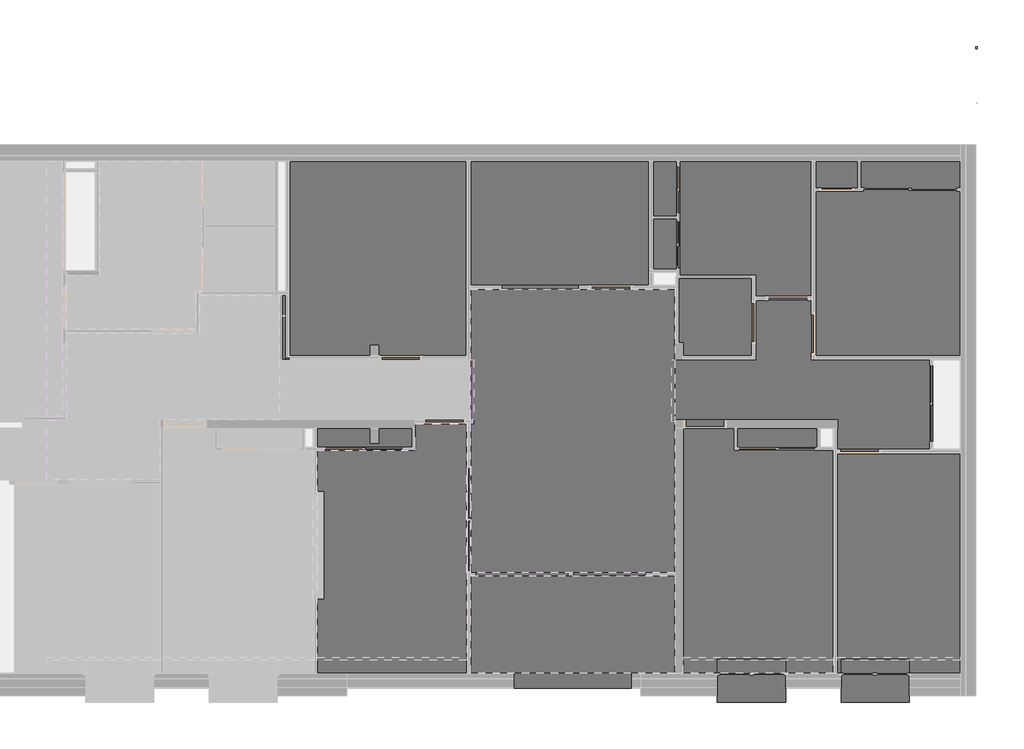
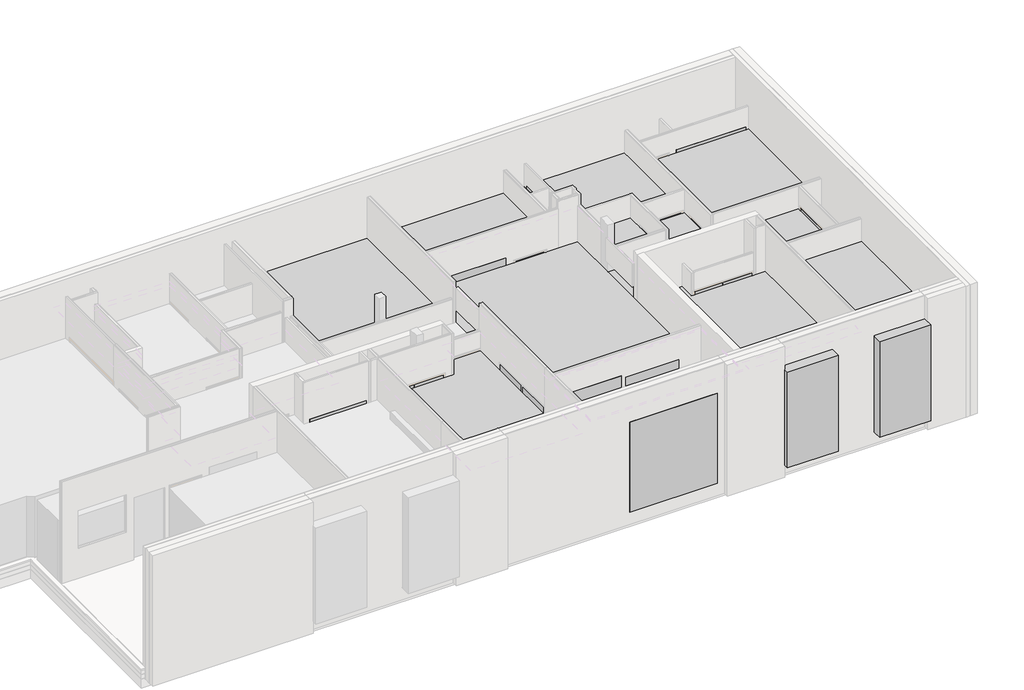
# One storey, part 8 of 8: 52 proxies.
"""IFC4 building model written with IfcOpenShell, lengths in millimetres."""

from ifc_helpers import new_model, si_unit, point, frame, frame_2d, origin, origin_with_axes, place, context, project, spatial, polyline, circle_curve, trimmed, segment, composite_curve, outline, extrude, faceted_brep, transform, mapped, element, save
from ifc_brep_helpers import plane_surface, revolved_surface, advanced_brep
from components import generic_models_f095d0f3

model = new_model("IFC4")

# Units and contexts
model_context = context("Model", 3, world=origin())
ifc_project = project(units=[si_unit("LENGTHUNIT", "METRE", prefix="MILLI")], contexts=[model_context])

# Site, building, storey
site = spatial("IfcSite", under=ifc_project)
building = spatial("IfcBuilding", under=site)
storey = spatial("IfcBuildingStorey", under=building, Name="0 Mairie RDC 0.00", Elevation=0.0)

# Proxies
placement = place(None, origin())
element("IfcBuildingElementProxy", 1, Name="Pièces - BUREAU 4", ObjectType="Pièces - BUREAU 4", at=placement, inside=storey, context=model_context, shape_type="SweptSolid", body=[
    extrude(outline(polyline([(1777.6156007, -8831.1038426), (1777.6156007, -13978.5662223), (-1106.3922233, -13978.5662223), (-1106.3922233, -8831.1038426), (1777.6156007, -8831.1038426)])), origin_with_axes(), (0.0, 0.0, 1.0), 2000.0),
])
element("IfcBuildingElementProxy", 2, Name="Pièces - WC PERSONNEL 5", ObjectType="Pièces - WC PERSONNEL 5", at=placement, inside=storey, context=model_context, shape_type="SweptSolid", body=[
    extrude(outline(polyline([(-4827.496702, -4722.7868397), (-3118.9176162, -4722.7868397), (-3118.9176162, -6533.7824715), (-4827.496702, -6533.7824715), (-4827.496702, -4722.7868397)])), origin_with_axes(), (0.0, 0.0, 1.0), 2000.0),
])
element("IfcBuildingElementProxy", 3, Name="Pièces - TECHNIQUE URBANISME 6", ObjectType="Pièces - TECHNIQUE URBANISME 6", at=placement, inside=storey, context=model_context, shape_type="SweptSolid", body=[
    extrude(outline(polyline([(-1206.3922233, -13978.5662223), (-3920.1625689, -13978.5662223), (-4727.496702, -13978.5662223), (-4727.496702, -11663.5833837), (-4727.496702, -8238.2685444), (-3526.0406291, -8238.2685444), (-3526.0406291, -8751.7570094), (-1541.0769125, -8751.7570094), (-1206.3922233, -8751.7570094), (-1206.3922233, -8781.1038426), (-1206.3922233, -13978.5662223)])), origin_with_axes(), (0.0, 0.0, 1.0), 2000.0),
])
element("IfcBuildingElementProxy", 4, Name="Pièces - Rgt TU 7", ObjectType="Pièces - Rgt TU 7", at=placement, inside=storey, context=model_context, shape_type="SweptSolid", body=[
    extrude(outline(polyline([(-3456.0406291, -8238.2685444), (-1576.0769125, -8238.2685444), (-1576.0769125, -8681.7570094), (-3456.0406291, -8681.7570094), (-3456.0406291, -8238.2685444)])), origin_with_axes(), (0.0, 0.0, 1.0), 2000.0),
])
element("IfcBuildingElementProxy", 5, Name="Generic Models", at=placement, inside=storey, context=model_context, shape_type="SweptSolid", body=[
    extrude(outline(polyline([(-1617.7552543, -5187.6533676), (-1617.7552543, -1972.7637486), (-634.0175894, -1972.7637486), (-634.0175894, -2637.7637486), (-564.0175894, -2637.7637486), (-564.0175894, -1972.7637486), (1777.6156007, -1972.7637486), (1777.6156007, -6533.7824715), (1092.9012584, -6533.7824715), (-1617.7552543, -6533.7824715), (-1617.7552543, -5187.6533676)])), origin_with_axes(), (0.0, 0.0, 1.0), 2000.0),
])
element("IfcBuildingElementProxy", 6, Name="Generic Models", at=placement, inside=storey, context=model_context, shape_type="AdvancedBrep", body=[
    advanced_brep(
    [(1169.4151282, -2359.887582, 62.1509425), (1144.0151282, -2359.887582, 62.1509425), (1156.7151282, -2359.887582, 62.1509425), (1156.7151282, -2359.887582, 24.0509425)],
    [
        (0, 1, circle_curve(frame((1156.7151282, -2359.887582, 62.1509425), z_axis=(0.0, 0.0, 1.0), x_axis=(-1.0, 0.0, 0.0)), 12.7)),
        (1, 2),
        (2, 0),
        (1, 0, circle_curve(frame((1156.7151282, -2359.887582, 62.1509425), z_axis=(0.0, 0.0, 1.0), x_axis=(-1.0, 0.0, 0.0)), 12.7)),
        (3, 1),
        (0, 3),
    ],
    [
        plane_surface(frame((1156.7151282, -2359.887582, 62.1509425), z_axis=(0.0, 0.0, 1.0), x_axis=(-1.0, 0.0, 0.0))),
        revolved_surface(polyline([(1144.0151282, -2359.887582, 62.1509425), (1156.7151282, -2359.887582, 24.0509425)]), (1156.7151282, -2359.887582, 62.1509425), (0.0, 0.0, -1.0)),
    ],
    [
        (0, [[1, 2, 3]]),
        (0, [[4, -3, -2]]),
        (1, [[5, -1, 6]]),
        (1, [[-6, -4, -5]]),
    ],
),
    advanced_brep(
    [(1144.0151282, -2359.887582, 62.1509425), (1169.4151282, -2359.887582, 62.1509425), (1156.7151282, -2359.887582, 62.1509425), (1156.7151282, -2359.887582, 100.2509425)],
    [
        (0, 1, circle_curve(frame((1156.7151282, -2359.887582, 62.1509425), z_axis=(0.0, 0.0, -1.0), x_axis=(1.0, 0.0, 0.0)), 12.7)),
        (1, 2),
        (2, 0),
        (1, 0, circle_curve(frame((1156.7151282, -2359.887582, 62.1509425), z_axis=(0.0, 0.0, -1.0), x_axis=(1.0, 0.0, 0.0)), 12.7)),
        (3, 1),
        (0, 3),
    ],
    [
        plane_surface(frame((1156.7151282, -2359.887582, 62.1509425), z_axis=(0.0, 0.0, -1.0), x_axis=(1.0, 0.0, 0.0))),
        revolved_surface(polyline([(1169.4151282, -2359.887582, 62.1509425), (1156.7151282, -2359.887582, 100.2509425)]), (1156.7151282, -2359.887582, 62.1509425), (0.0, 0.0, 1.0)),
    ],
    [
        (0, [[1, 2, 3]]),
        (0, [[4, -3, -2]]),
        (1, [[5, -1, 6]]),
        (1, [[-6, -4, -5]]),
    ],
),
])
element("IfcBuildingElementProxy", 7, Name="Generic Models", at=placement, inside=storey, context=model_context, shape_type="SweptSolid", body=[
    extrude(outline(polyline([(-1617.7552543, -5187.6533676), (-1617.7552543, -1972.7637486), (-634.0175894, -1972.7637486), (-634.0175894, -2637.7637486), (-564.0175894, -2637.7637486), (-564.0175894, -1972.7637486), (1777.6156007, -1972.7637486), (1777.6156007, -6533.7824715), (1092.9012584, -6533.7824715), (-1617.7552543, -6533.7824715), (-1617.7552543, -5187.6533676)])), origin_with_axes(), (0.0, 0.0, 1.0), 2000.0),
])
element("IfcBuildingElementProxy", 8, Name="Generic Models", at=placement, inside=storey, context=model_context, shape_type="SweptSolid", body=[
    extrude(outline(polyline([(-1617.7552543, -5187.6533676), (-1617.7552543, -1972.7637486), (-634.0175894, -1972.7637486), (-634.0175894, -2637.7637486), (-564.0175894, -2637.7637486), (-564.0175894, -1972.7637486), (1777.6156007, -1972.7637486), (1777.6156007, -6533.7824715), (1092.9012584, -6533.7824715), (-1617.7552543, -6533.7824715), (-1617.7552543, -5187.6533676)])), origin_with_axes(), (0.0, 0.0, 1.0), 2000.0),
])
element("IfcBuildingElementProxy", 9, Name="Pièces - HALL D'ACCUEIL 16", ObjectType="Pièces - HALL D'ACCUEIL 16", at=placement, inside=storey, context=model_context, shape_type="SweptSolid", body=[
    extrude(outline(polyline([(-9708.4471465, -4978.2154166), (-5529.0919733, -4978.2154166), (-5527.496701, -4978.2154166), (-5477.496701, -4978.2154166), (-4927.496702, -4978.2154166), (-4927.496702, -6233.7824715), (-4927.496702, -6633.7824715), (-4927.496702, -7985.2589444), (-4927.496702, -8138.2685444), (-4927.496702, -11628.5833837), (-9754.6455383, -11628.5833837), (-9754.6455383, -9128.5833837), (-9704.6455383, -9128.5833837), (-9704.6455383, -8082.7867091), (-9708.4471465, -8082.7867091), (-9708.4471465, -6735.5436392), (-9708.4471465, -6532.5340392), (-9708.4471465, -4978.2154166)])), origin_with_axes(), (0.0, 0.0, 1.0), 2000.0),
])
element("IfcBuildingElementProxy", 10, Name="Pièces - ENTRETIEN 17", ObjectType="Pièces - ENTRETIEN 17", at=placement, inside=storey, context=model_context, shape_type="SweptSolid", body=[
    extrude(outline(polyline([(-5427.496701, -3327.7490792), (-4842.4967035, -3327.7490792), (-4842.4967035, -3257.7490792), (-5427.496701, -3257.7490792), (-5427.496701, -1972.7637486), (-1717.7552543, -1972.7637486), (-1717.7552543, -5137.6533676), (-3018.9176162, -5137.6533676), (-3018.9176162, -4652.7868397), (-4842.4967035, -4652.7868397), (-4842.4967035, -4510.805772), (-5015.506302, -4510.805772), (-5427.496701, -4510.805772), (-5427.496701, -3327.7490792)])), origin_with_axes(), (0.0, 0.0, 1.0), 2000.0),
])
element("IfcBuildingElementProxy", 11, Name="Pièces - SAS 18", ObjectType="Pièces - SAS 18", at=placement, inside=storey, context=model_context, shape_type="SweptSolid", body=[
    extrude(outline(polyline([(-9704.6455383, -11698.5833837), (-4927.496702, -11698.5833837), (-4927.496702, -13978.5662223), (-9704.6455383, -13978.5662223), (-9704.6455383, -11698.5833837)])), origin_with_axes(), (0.0, 0.0, 1.0), 2000.0),
])
element("IfcBuildingElementProxy", 12, Name="Pièces - BUREAU COMPTABILITE 19", ObjectType="Pièces - BUREAU COMPTABILITE 19", at=placement, inside=storey, context=model_context, shape_type="SweptSolid", body=[
    extrude(outline(polyline([(-9804.6455383, -13978.5662223), (-12618.5500393, -13978.5662223), (-13304.255006, -13978.5662223), (-13304.255006, -12228.7534329), (-13354.255006, -12228.7534329), (-13354.255006, -9728.7649845), (-13304.255006, -9728.7649845), (-13304.255006, -8754.3718601), (-13304.255006, -8752.7765879), (-13304.255006, -8717.7765879), (-13304.255006, -8232.7637435), (-12058.4196435, -8232.7637435), (-12058.4196435, -8582.7637435), (-11858.4196435, -8582.7637435), (-11858.4196435, -8232.7637435), (-11073.1086334, -8232.7637435), (-11073.1086334, -8717.6130855), (-11003.1086334, -8717.6130855), (-11003.1086334, -8132.7867091), (-9804.6455383, -8132.7867091), (-9804.6455383, -9128.5833837), (-9754.6455383, -9128.5833837), (-9754.6455383, -11626.9881114), (-9754.6455383, -11628.5833837), (-9804.6455383, -11663.5833837), (-9804.6455383, -13978.5662223)])), origin_with_axes(), (0.0, 0.0, 1.0), 2000.0),
])
element("IfcBuildingElementProxy", 13, Name="Pièces - REPROGRAPHIE 25", ObjectType="Pièces - REPROGRAPHIE 25", at=placement, inside=storey, context=model_context, shape_type="SweptSolid", body=[
    extrude(outline(polyline([(-9708.4471465, -1972.7637486), (-5527.496701, -1972.7637486), (-5527.496701, -4878.2154166), (-9708.4471465, -4878.2154166), (-9708.4471465, -1972.7637486)])), origin_with_axes(), (0.0, 0.0, 1.0), 2000.0),
])
element("IfcBuildingElementProxy", 14, Name="Pièces - DEGAGEMENT 2 27", ObjectType="Pièces - DEGAGEMENT 2 27", at=placement, inside=storey, context=model_context, shape_type="SweptSolid", body=[
    extrude(outline(polyline([(-1717.7552543, -6633.7824715), (1057.9012584, -6633.7824715), (1057.9012584, -8731.1038426), (-1106.3922233, -8731.1038426), (-1106.3922233, -8239.8638166), (-1106.3922233, -8038.2685444), (-1207.9874955, -8038.2685444), (-1504.4816403, -8038.2685444), (-1577.6721848, -8038.2685444), (-3454.4453569, -8038.2685444), (-3527.6359014, -8038.2685444), (-4927.496702, -8038.2685444), (-4927.496702, -6633.7824715), (-4727.496702, -6633.7824715), (-3018.9176162, -6633.7824715), (-3018.9176162, -5237.6533676), (-1717.7552543, -5237.6533676), (-1717.7552543, -6633.7824715)])), origin_with_axes(), (0.0, 0.0, 1.0), 2000.0),
])
element("IfcBuildingElementProxy", 15, Name="Pièces - ARCHIVES 29", ObjectType="Pièces - ARCHIVES 29", at=placement, inside=storey, context=model_context, shape_type="SweptSolid", body=[
    extrude(outline(polyline([(-11858.5461708, -6292.5340392), (-12058.5461708, -6292.5340392), (-12058.5461708, -6532.5340392), (-13946.7760862, -6532.5340392), (-13946.7760862, -1972.7637486), (-9808.4471465, -1972.7637486), (-9808.4471465, -6532.5340392), (-11858.5461708, -6532.5340392), (-11858.5461708, -6292.5340392)])), origin_with_axes(), (0.0, 0.0, 1.0), 2000.0),
])
element("IfcBuildingElementProxy", 16, Name="Generic Models", at=placement, inside=storey, context=model_context, shape_type="SweptSolid", body=[
    extrude(outline(polyline([(-4877.4967035, -4477.5549021), (-4877.4967035, -3377.5549021), (-4807.4967035, -3377.5549021), (-4807.4967035, -4477.5549021), (-4877.4967035, -4477.5549021)])), origin_with_axes(), (0.0, 0.0, 1.0), 2100.0),
])
element("IfcBuildingElementProxy", 17, Name="Generic Models", at=placement, inside=storey, context=model_context, shape_type="SweptSolid", body=[
    extrude(outline(polyline([(-4807.4967035, -2089.805772), (-4807.4967035, -3189.805772), (-4877.4967035, -3189.805772), (-4877.4967035, -2089.805772), (-4807.4967035, -2089.805772)])), origin_with_axes(), (0.0, 0.0, 1.0), 2100.0),
])
element("IfcBuildingElementProxy", 18, Name="Generic Models", at=placement, inside=storey, context=model_context, shape_type="SweptSolid", body=[
    extrude(outline(polyline([(-1617.7552543, -5518.7824715), (-1617.7552543, -6518.7824715), (-1717.7552543, -6518.7824715), (-1717.7552543, -5518.7824715), (-1617.7552543, -5518.7824715)])), origin_with_axes(), (0.0, 0.0, 1.0), 2075.0),
])
element("IfcBuildingElementProxy", 19, Name="Generic Models", at=placement, inside=storey, context=model_context, shape_type="SweptSolid", body=[
    extrude(outline(polyline([(-3018.9176162, -5252.6533676), (-3018.9176162, -6252.6533676), (-3118.9176162, -6252.6533676), (-3118.9176162, -5252.6533676), (-3018.9176162, -5252.6533676)])), origin_with_axes(), (0.0, 0.0, 1.0), 2075.0),
])
element("IfcBuildingElementProxy", 20, Name="Generic Models", at=placement, inside=storey, context=model_context, shape_type="SweptSolid", body=[
    extrude(outline(polyline([(-2767.7552543, -5137.6533676), (-1767.7552543, -5137.6533676), (-1767.7552543, -5237.6533676), (-2767.7552543, -5237.6533676), (-2767.7552543, -5137.6533676)])), origin_with_axes(), (0.0, 0.0, 1.0), 2075.0),
])
element("IfcBuildingElementProxy", 21, Name="Generic Models", at=placement, inside=storey, context=model_context, shape_type="SweptSolid", body=[
    extrude(outline(polyline([(-11848.5461708, -6532.5340392), (-10848.5461708, -6532.5340392), (-10848.5461708, -6632.5340392), (-11848.5461708, -6632.5340392), (-11848.5461708, -6532.5340392)])), origin_with_axes(), (0.0, 0.0, 1.0), 2075.0),
])
element("IfcBuildingElementProxy", 22, Name="Generic Models", at=placement, inside=storey, context=model_context, shape_type="SweptSolid", body=[
    extrude(outline(polyline([(-91.3922233, -8831.1038426), (-1091.3922233, -8831.1038426), (-1091.3922233, -8731.1038426), (-91.3922233, -8731.1038426), (-91.3922233, -8831.1038426)])), origin_with_axes(), (0.0, 0.0, 1.0), 2075.0),
])
element("IfcBuildingElementProxy", 23, Name="Generic Models", at=placement, inside=storey, context=model_context, shape_type="SweptSolid", body=[
    extrude(outline(polyline([(-1091.3922233, -8831.1038426), (-1091.3922233, -8731.1038426), (-91.3922233, -8731.1038426), (-91.3922233, -8831.1038426), (-1091.3922233, -8831.1038426)])), origin_with_axes(), (0.0, 0.0, 1.0), 2075.0),
])
element("IfcBuildingElementProxy", 24, Name="Generic Models", at=placement, inside=storey, context=model_context, shape_type="SweptSolid", body=[
    extrude(outline(polyline([(-1621.0406291, -8751.7570094), (-3421.0406291, -8751.7570094), (-3421.0406291, -8681.7570094), (-1621.0406291, -8681.7570094), (-1621.0406291, -8751.7570094)])), origin_with_axes(), (0.0, 0.0, 1.0), 2100.0),
])
element("IfcBuildingElementProxy", 25, Name="Generic Models", at=placement, inside=storey, context=model_context, shape_type="SweptSolid", body=[
    extrude(outline(polyline([(-6917.4166831, -4878.2154166), (-5917.4166831, -4878.2154166), (-5917.4166831, -4978.2154166), (-6917.4166831, -4978.2154166), (-6917.4166831, -4878.2154166)])), origin_with_axes(), (0.0, 0.0, 1.0), 2075.0),
])
element("IfcBuildingElementProxy", 26, Name="Generic Models", at=placement, inside=storey, context=model_context, shape_type="SweptSolid", body=[
    extrude(outline(polyline([(-8974.496701, -4878.2154166), (-7174.496701, -4878.2154166), (-7174.496701, -4978.2154166), (-8974.496701, -4978.2154166), (-8974.496701, -4878.2154166)])), frame((0.0, 0.0, 1000.0), z_axis=(0.0, 0.0, 1.0), x_axis=(1.0, 0.0, 0.0)), (0.0, 0.0, 1.0), 1250.0),
])
element("IfcBuildingElementProxy", 27, Name="Generic Models", at=placement, inside=storey, context=model_context, shape_type="SweptSolid", body=[
    extrude(outline(polyline([(-725.8864219, -2672.7637486), (-1525.8864219, -2672.7637486), (-1525.8864219, -2602.7637486), (-725.8864219, -2602.7637486), (-725.8864219, -2672.7637486)])), origin_with_axes(), (0.0, 0.0, 1.0), 2075.0),
])
element("IfcBuildingElementProxy", 28, Name="Generic Models", at=placement, inside=storey, context=model_context, shape_type="SweptSolid", body=[
    extrude(outline(polyline([(-499.0175894, -2602.7637486), (1700.9824106, -2602.7637486), (1700.9824106, -2672.7637486), (-499.0175894, -2672.7637486), (-499.0175894, -2602.7637486)])), origin_with_axes(), (0.0, 0.0, 1.0), 2100.0),
])
element("IfcBuildingElementProxy", 29, Name="Generic Models", at=placement, inside=storey, context=model_context, shape_type="SweptSolid", body=[
    extrude(outline(polyline([(-5605.3883155, -11698.5833837), (-7305.3883155, -11698.5833837), (-7305.3883155, -11628.5833837), (-5605.3883155, -11628.5833837), (-5605.3883155, -11698.5833837)])), origin_with_axes(), (0.0, 0.0, 1.0), 2400.0),
])
element("IfcBuildingElementProxy", 30, Name="Generic Models", at=placement, inside=storey, context=model_context, shape_type="SweptSolid", body=[
    extrude(outline(polyline([(-7424.6455383, -11698.5833837), (-9584.6455383, -11698.5833837), (-9584.6455383, -11628.5833837), (-7424.6455383, -11628.5833837), (-7424.6455383, -11698.5833837)])), origin_with_axes(), (0.0, 0.0, 1.0), 2500.0),
])
element("IfcBuildingElementProxy", 31, Name="Generic Models", at=placement, inside=storey, context=model_context, shape_type="SweptSolid", body=[
    extrude(outline(polyline([(-11313.6818197, -8752.6130855), (-13113.6818197, -8752.6130855), (-13113.6818197, -8682.6130855), (-11313.6818197, -8682.6130855), (-11313.6818197, -8752.6130855)])), origin_with_axes(), (0.0, 0.0, 1.0), 2100.0),
])
element("IfcBuildingElementProxy", 32, Name="Generic Models", at=placement, inside=storey, context=model_context, shape_type="SweptSolid", body=[
    extrude(outline(polyline([(-9819.6455383, -8132.7867091), (-10819.6455383, -8132.7867091), (-10819.6455383, -8032.7867091), (-9819.6455383, -8032.7867091), (-9819.6455383, -8132.7867091)])), origin_with_axes(), (0.0, 0.0, 1.0), 2075.0),
])
element("IfcBuildingElementProxy", 33, Name="Generic Models", at=placement, inside=storey, context=model_context, shape_type="SweptSolid", body=[
    extrude(outline(polyline([(-3712.496702, -8238.2685444), (-4712.496702, -8238.2685444), (-4712.496702, -8038.2685444), (-3712.496702, -8038.2685444), (-3712.496702, -8238.2685444)])), origin_with_axes(), (0.0, 0.0, 1.0), 2075.0),
])
element("IfcBuildingElementProxy", 34, Name="Generic Models", at=placement, inside=storey, context=model_context, shape_type="SweptSolid", body=[
    extrude(outline(polyline([(1057.9012584, -8557.443157), (1057.9012584, -6757.443157), (1127.9012584, -6757.443157), (1127.9012584, -8557.443157), (1057.9012584, -8557.443157)])), origin_with_axes(), (0.0, 0.0, 1.0), 2100.0),
])
element("IfcBuildingElementProxy", 35, Name="Generic Models", at=placement, inside=storey, context=model_context, shape_type="SweptSolid", body=[
    extrude(outline(polyline([(-5934.6455383, -14338.5662223), (-8694.6455383, -14338.5662223), (-8694.6455383, -13978.5662223), (-5934.6455383, -13978.5662223), (-5934.6455383, -14338.5662223)])), origin_with_axes(), (0.0, 0.0, 1.0), 3000.0),
])
element("IfcBuildingElementProxy", 36, Name="Generic Models", at=placement, inside=storey, context=model_context, shape_type="Brep", body=[
    faceted_brep([(-2320.1625689, -14391.5689782, 0.0), (-2320.1625689, -14058.5662223, 35.0), (-2320.1625689, -14078.5662223, 35.0), (-2320.1625689, -14078.5662223, 3185.0), (-2320.1625689, -14658.5662223, 3185.0), (-2320.1625689, -14658.5662223, 0.0), (-3920.1625689, -13658.5662223, 3185.0), (-3920.1625689, -13658.5662223, 35.0), (-3920.1625689, -13978.5662223, 35.0), (-3920.1625689, -13978.5662223, 3185.0), (-2320.1625689, -13658.5662223, 35.0), (-2320.1625689, -13978.5662223, 35.0), (-2270.1625689, -13978.5662223, 35.0), (-2270.1625689, -14028.5662223, 35.0), (-2310.1625689, -14028.5662223, 35.0), (-2310.1625689, -14078.5662223, 35.0), (-3920.1625689, -14058.5662223, 35.0), (-3920.1625689, -14078.5662223, 35.0), (-3930.1625689, -14078.5662223, 35.0), (-3930.1625689, -14028.5662223, 35.0), (-3970.1625689, -14028.5662223, 35.0), (-3970.1625689, -13978.5662223, 35.0), (-2320.1625689, -13658.5662223, 3185.0), (-3920.1625689, -14658.5662223, 3185.0), (-3920.1625689, -14078.5662223, 3185.0), (-3920.1625689, -14658.5662223, 0.0), (-3920.1625689, -14391.5689782, 0.0), (-2270.1625689, -13978.5662223, 3235.0), (-2270.1625689, -14028.5662223, 3235.0), (-3970.1625689, -14028.5662223, 3235.0), (-3930.1625689, -14028.5662223, 3195.0), (-2310.1625689, -14028.5662223, 3195.0), (-2310.1625689, -14078.5662223, 3195.0), (-3930.1625689, -14078.5662223, 3195.0), (-2320.1625689, -13978.5662223, 3185.0), (-3970.1625689, -13978.5662223, 3235.0)], [[[0, 1, 2, 3, 4, 5]], [[6, 7, 8, 9]], [[7, 10, 11, 12, 13, 14, 15, 2, 1, 16, 17, 18, 19, 20, 21, 8]], [[22, 10, 7, 6]], [[23, 4, 3, 24]], [[5, 4, 23, 25]], [[0, 5, 25, 26]], [[1, 0, 26, 16]], [[13, 12, 27, 28]], [[14, 13, 28, 29, 20, 19, 30, 31]], [[15, 14, 31, 32]], [[2, 15, 32, 33, 18, 17, 24, 3]], [[12, 11, 34, 9, 8, 21, 35, 27]], [[28, 27, 35, 29]], [[31, 30, 33, 32]], [[20, 29, 35, 21]], [[30, 19, 18, 33]], [[22, 6, 9, 34]], [[25, 23, 24, 17, 16, 26]], [[10, 22, 34, 11]]]),
])
element("IfcBuildingElementProxy", 37, Name="Generic Models", at=placement, inside=storey, context=model_context, shape_type="Brep", body=[
    faceted_brep([(577.6156007, -14391.5689782, 0.0), (577.6156007, -14058.5662223, 35.0), (577.6156007, -14078.5662223, 35.0), (577.6156007, -14078.5662223, 3185.0), (577.6156007, -14658.5662223, 3185.0), (577.6156007, -14658.5662223, 0.0), (-1022.3843993, -13658.5662223, 3185.0), (-1022.3843993, -13658.5662223, 35.0), (-1022.3843993, -13978.5662223, 35.0), (-1022.3843993, -13978.5662223, 3185.0), (577.6156007, -13658.5662223, 35.0), (577.6156007, -13978.5662223, 35.0), (627.6156007, -13978.5662223, 35.0), (627.6156007, -14028.5662223, 35.0), (587.6156007, -14028.5662223, 35.0), (587.6156007, -14078.5662223, 35.0), (-1022.3843993, -14058.5662223, 35.0), (-1022.3843993, -14078.5662223, 35.0), (-1032.3843993, -14078.5662223, 35.0), (-1032.3843993, -14028.5662223, 35.0), (-1072.3843993, -14028.5662223, 35.0), (-1072.3843993, -13978.5662223, 35.0), (577.6156007, -13658.5662223, 3185.0), (-1022.3843993, -14658.5662223, 3185.0), (-1022.3843993, -14078.5662223, 3185.0), (-1022.3843993, -14658.5662223, 0.0), (-1022.3843993, -14391.5689782, 0.0), (627.6156007, -13978.5662223, 3235.0), (627.6156007, -14028.5662223, 3235.0), (-1072.3843993, -14028.5662223, 3235.0), (-1032.3843993, -14028.5662223, 3195.0), (587.6156007, -14028.5662223, 3195.0), (587.6156007, -14078.5662223, 3195.0), (-1032.3843993, -14078.5662223, 3195.0), (577.6156007, -13978.5662223, 3185.0), (-1072.3843993, -13978.5662223, 3235.0)], [[[0, 1, 2, 3, 4, 5]], [[6, 7, 8, 9]], [[7, 10, 11, 12, 13, 14, 15, 2, 1, 16, 17, 18, 19, 20, 21, 8]], [[22, 10, 7, 6]], [[23, 4, 3, 24]], [[5, 4, 23, 25]], [[0, 5, 25, 26]], [[1, 0, 26, 16]], [[13, 12, 27, 28]], [[14, 13, 28, 29, 20, 19, 30, 31]], [[15, 14, 31, 32]], [[2, 15, 32, 33, 18, 17, 24, 3]], [[12, 11, 34, 9, 8, 21, 35, 27]], [[28, 27, 35, 29]], [[31, 30, 33, 32]], [[20, 29, 35, 21]], [[30, 19, 18, 33]], [[22, 6, 9, 34]], [[25, 23, 24, 17, 16, 26]], [[10, 22, 34, 11]]]),
])
element("IfcBuildingElementProxy", 38, Name="Generic Models", at=placement, inside=storey, context=model_context, shape_type="SweptSolid", body=[
    extrude(outline(polyline([(1777.6156007, -1842.7637486), (1907.6156007, -1842.7637486), (1907.6156007, -14108.5662223), (1777.6156007, -14108.5662223), (1777.6156007, -1842.7637486)])), frame((0.0, 0.0, -400.0), z_axis=(0.0, 0.0, 1.0), x_axis=(1.0, 0.0, 0.0)), (0.0, 0.0, 1.0), 380.0),
])
element("IfcBuildingElementProxy", 39, Name="Generic Models", at=placement, inside=storey, context=model_context, shape_type="Brep", body=[
    faceted_brep([(-2320.1625689, -14391.5689782, 0.0), (-2320.1625689, -14058.5662223, 35.0), (-2320.1625689, -14078.5662223, 35.0), (-2320.1625689, -14078.5662223, 3185.0), (-2320.1625689, -14658.5662223, 3185.0), (-2320.1625689, -14658.5662223, 0.0), (-3920.1625689, -13658.5662223, 3185.0), (-3920.1625689, -13658.5662223, 35.0), (-3920.1625689, -13978.5662223, 35.0), (-3920.1625689, -13978.5662223, 3185.0), (-2320.1625689, -13658.5662223, 35.0), (-2320.1625689, -13978.5662223, 35.0), (-2270.1625689, -13978.5662223, 35.0), (-2270.1625689, -14028.5662223, 35.0), (-2310.1625689, -14028.5662223, 35.0), (-2310.1625689, -14078.5662223, 35.0), (-3920.1625689, -14058.5662223, 35.0), (-3920.1625689, -14078.5662223, 35.0), (-3930.1625689, -14078.5662223, 35.0), (-3930.1625689, -14028.5662223, 35.0), (-3970.1625689, -14028.5662223, 35.0), (-3970.1625689, -13978.5662223, 35.0), (-2320.1625689, -13658.5662223, 3185.0), (-3920.1625689, -14658.5662223, 3185.0), (-3920.1625689, -14078.5662223, 3185.0), (-3920.1625689, -14658.5662223, 0.0), (-3920.1625689, -14391.5689782, 0.0), (-2270.1625689, -13978.5662223, 3235.0), (-2270.1625689, -14028.5662223, 3235.0), (-3970.1625689, -14028.5662223, 3235.0), (-3930.1625689, -14028.5662223, 3195.0), (-2310.1625689, -14028.5662223, 3195.0), (-2310.1625689, -14078.5662223, 3195.0), (-3930.1625689, -14078.5662223, 3195.0), (-2320.1625689, -13978.5662223, 3185.0), (-3970.1625689, -13978.5662223, 3235.0)], [[[0, 1, 2, 3, 4, 5]], [[6, 7, 8, 9]], [[7, 10, 11, 12, 13, 14, 15, 2, 1, 16, 17, 18, 19, 20, 21, 8]], [[22, 10, 7, 6]], [[23, 4, 3, 24]], [[5, 4, 23, 25]], [[0, 5, 25, 26]], [[1, 0, 26, 16]], [[13, 12, 27, 28]], [[14, 13, 28, 29, 20, 19, 30, 31]], [[15, 14, 31, 32]], [[2, 15, 32, 33, 18, 17, 24, 3]], [[12, 11, 34, 9, 8, 21, 35, 27]], [[28, 27, 35, 29]], [[31, 30, 33, 32]], [[20, 29, 35, 21]], [[30, 19, 18, 33]], [[22, 6, 9, 34]], [[25, 23, 24, 17, 16, 26]], [[10, 22, 34, 11]]]),
])
element("IfcBuildingElementProxy", 40, Name="Generic Models", at=placement, inside=storey, context=model_context, shape_type="Brep", body=[
    faceted_brep([(577.6156007, -14391.5689782, 0.0), (577.6156007, -14058.5662223, 35.0), (577.6156007, -14078.5662223, 35.0), (577.6156007, -14078.5662223, 3185.0), (577.6156007, -14658.5662223, 3185.0), (577.6156007, -14658.5662223, 0.0), (-1022.3843993, -13658.5662223, 3185.0), (-1022.3843993, -13658.5662223, 35.0), (-1022.3843993, -13978.5662223, 35.0), (-1022.3843993, -13978.5662223, 3185.0), (577.6156007, -13658.5662223, 35.0), (577.6156007, -13978.5662223, 35.0), (627.6156007, -13978.5662223, 35.0), (627.6156007, -14028.5662223, 35.0), (587.6156007, -14028.5662223, 35.0), (587.6156007, -14078.5662223, 35.0), (-1022.3843993, -14058.5662223, 35.0), (-1022.3843993, -14078.5662223, 35.0), (-1032.3843993, -14078.5662223, 35.0), (-1032.3843993, -14028.5662223, 35.0), (-1072.3843993, -14028.5662223, 35.0), (-1072.3843993, -13978.5662223, 35.0), (577.6156007, -13658.5662223, 3185.0), (-1022.3843993, -14658.5662223, 3185.0), (-1022.3843993, -14078.5662223, 3185.0), (-1022.3843993, -14658.5662223, 0.0), (-1022.3843993, -14391.5689782, 0.0), (627.6156007, -13978.5662223, 3235.0), (627.6156007, -14028.5662223, 3235.0), (-1072.3843993, -14028.5662223, 3235.0), (-1032.3843993, -14028.5662223, 3195.0), (587.6156007, -14028.5662223, 3195.0), (587.6156007, -14078.5662223, 3195.0), (-1032.3843993, -14078.5662223, 3195.0), (577.6156007, -13978.5662223, 3185.0), (-1072.3843993, -13978.5662223, 3235.0)], [[[0, 1, 2, 3, 4, 5]], [[6, 7, 8, 9]], [[7, 10, 11, 12, 13, 14, 15, 2, 1, 16, 17, 18, 19, 20, 21, 8]], [[22, 10, 7, 6]], [[23, 4, 3, 24]], [[5, 4, 23, 25]], [[0, 5, 25, 26]], [[1, 0, 26, 16]], [[13, 12, 27, 28]], [[14, 13, 28, 29, 20, 19, 30, 31]], [[15, 14, 31, 32]], [[2, 15, 32, 33, 18, 17, 24, 3]], [[12, 11, 34, 9, 8, 21, 35, 27]], [[28, 27, 35, 29]], [[31, 30, 33, 32]], [[20, 29, 35, 21]], [[30, 19, 18, 33]], [[22, 6, 9, 34]], [[25, 23, 24, 17, 16, 26]], [[10, 22, 34, 11]]]),
])
element("IfcBuildingElementProxy", 41, Name="Generic Models", at=placement, inside=storey, context=model_context, shape_type="SweptSolid", body=[
    extrude(outline(polyline([(-9704.6455383, -9128.5833837), (-9704.6455383, -11628.5833837), (-9804.6455383, -11628.5833837), (-9804.6455383, -9128.5833837), (-9704.6455383, -9128.5833837)])), origin_with_axes(), (0.0, 0.0, 1.0), 2250.0),
])
element("IfcBuildingElementProxy", 42, Name="Generic Models", at=placement, inside=storey, context=model_context, shape_type="SweptSolid", body=[
    extrude(outline(polyline([(-13304.255006, -9728.7649845), (-13304.255006, -12228.7534329), (-13404.255006, -12228.7534329), (-13404.255006, -9728.7649845), (-13304.255006, -9728.7649845)])), origin_with_axes(), (0.0, 0.0, 1.0), 2080.0),
])
element("IfcBuildingElementProxy", 43, Name="Generic Models", at=placement, inside=storey, context=model_context, shape_type="SweptSolid", body=[
    extrude(outline(polyline([(-15528.6479915, -8682.779598), (-13728.6479915, -8682.779598), (-13728.6479915, -8752.779598), (-15528.6479915, -8752.779598), (-15528.6479915, -8682.779598)])), origin_with_axes(), (0.0, 0.0, 1.0), 2100.0),
])
element("IfcBuildingElementProxy", 44, Name="Generic Models", at=placement, inside=storey, context=model_context, shape_type="SweptSolid", body=[
    extrude(outline(polyline([(-16015.9503686, -2987.7637486), (-16015.9503686, -1987.7637486), (-15945.9503686, -1987.7637486), (-15945.9503686, -2987.7637486), (-16015.9503686, -2987.7637486)])), origin_with_axes(), (0.0, 0.0, 1.0), 2075.0),
])
element("IfcBuildingElementProxy", 45, Name="Generic Models", at=placement, inside=storey, context=model_context, shape_type="SweptSolid", body=[
    extrude(outline(polyline([(-16015.9503686, -5004.9219201), (-16015.9503686, -4004.9219201), (-15945.9503686, -4004.9219201), (-15945.9503686, -5004.9219201), (-16015.9503686, -5004.9219201)])), origin_with_axes(), (0.0, 0.0, 1.0), 2075.0),
])
element("IfcBuildingElementProxy", 46, Name="Generic Models", at=placement, inside=storey, context=model_context, shape_type="SweptSolid", body=[
    extrude(outline(polyline([(-14132.6238573, -6633.7824715), (-14132.6238573, -8032.7867091), (-14202.6238573, -8032.7867091), (-14202.6238573, -6633.7824715), (-14132.6238573, -6633.7824715)])), origin_with_axes(), (0.0, 0.0, 1.0), 1320.0),
])
element("IfcBuildingElementProxy", 47, Name="Generic Models", at=placement, inside=storey, context=model_context, shape_type="Brep", body=[
    faceted_brep([(-14129.6238573, -6583.7637435, 0.0), (-14129.6238573, -5123.7637435, 0.0), (-14049.6238573, -5123.7637435, 0.0), (-14049.6238573, -6583.7637435, 0.0), (-14054.6238573, -6583.7637435, 0.0), (-14054.6238573, -7980.7637435, 0.0), (-14049.6238573, -7980.7637435, 0.0), (-14049.6238573, -8003.7637435, 0.0), (-14129.6238573, -8003.7637435, 0.0), (-14129.6238573, -7980.7637435, 0.0), (-14124.6238573, -7980.7637435, 0.0), (-14124.6238573, -6583.7637435, 0.0), (-14129.6238573, -6583.7637435, 2051.0), (-14129.6238573, -7980.7637435, 2051.0), (-14129.6238573, -8003.7637435, 2120.0), (-14129.6238573, -5123.7637435, 2120.0), (-14124.6238573, -6583.7637435, 2051.0), (-14124.6238573, -7980.7637435, 2051.0), (-14049.6238573, -8003.7637435, 2120.0), (-14049.6238573, -7980.7637435, 2051.0), (-14049.6238573, -6583.7637435, 2051.0), (-14049.6238573, -5123.7637435, 2120.0), (-14054.6238573, -7980.7637435, 2051.0), (-14054.6238573, -6583.7637435, 2051.0)], [[[0, 1, 2, 3, 4, 5, 6, 7, 8, 9, 10, 11]], [[1, 0, 12, 13, 9, 8, 14, 15]], [[0, 11, 16, 12]], [[11, 10, 17, 16]], [[10, 9, 13, 17]], [[8, 7, 18, 14]], [[7, 6, 19, 20, 3, 2, 21, 18]], [[6, 5, 22, 19]], [[5, 4, 23, 22]], [[4, 3, 20, 23]], [[1, 15, 21, 2]], [[18, 21, 15, 14]], [[13, 12, 16, 17]], [[20, 19, 22, 23]]]),
])
element("IfcBuildingElementProxy", 48, Name="Generic Models", at=placement, inside=storey, context=model_context, shape_type="SweptSolid", body=[
    extrude(outline(composite_curve([segment(trimmed(circle_curve(frame_2d((691.5, 1000.0017016)), 25.0), [point((716.5, 1000.0017016))], [point((666.5, 1000.0017016))], False, "CARTESIAN"), True, "CONTINUOUS"), segment(trimmed(circle_curve(frame_2d((691.5, 1000.0017016)), 25.0), [point((666.5, 1000.0017016))], [point((716.5, 1000.0017016))], False, "CARTESIAN"), True, "CONTINUOUS")], self_intersect=False)), frame((2139.5, 0.0, 0.0), z_axis=(1.0, 0.0, 0.0), x_axis=(0.0, 1.0, 0.0)), (0.0, 0.0, 1.0), 38.0),
])
element("IfcBuildingElementProxy", 49, Name="Generic Models", at=placement, inside=storey, context=model_context, shape_type="SweptSolid", body=[
    extrude(outline(composite_curve([segment(trimmed(circle_curve(frame_2d((2158.5, 691.5)), 2.0), [point((2158.5, 693.5))], [point((2158.5, 689.5))], False, "CARTESIAN"), True, "CONTINUOUS"), segment(trimmed(circle_curve(frame_2d((2158.5, 691.5)), 2.0), [point((2158.5, 689.5))], [point((2158.5, 693.5))], False, "CARTESIAN"), True, "CONTINUOUS")], self_intersect=False)), frame((0.0, 0.0, 2062.0), z_axis=(0.0, 0.0, 1.0), x_axis=(1.0, 0.0, 0.0)), (0.0, 0.0, 1.0), 9.5146134),
])
element("IfcBuildingElementProxy", 50, Name="Generic Models", at=placement, inside=storey, context=model_context, shape_type="SweptSolid", body=[
    extrude(outline(composite_curve([segment(trimmed(circle_curve(frame_2d((2158.5, -608.5)), 2.0), [point((2158.5, -610.5))], [point((2158.5, -606.5))], False, "CARTESIAN"), True, "CONTINUOUS"), segment(trimmed(circle_curve(frame_2d((2158.5, -608.5)), 2.0), [point((2158.5, -606.5))], [point((2158.5, -610.5))], False, "CARTESIAN"), True, "CONTINUOUS")], self_intersect=False)), frame((0.0, 0.0, 2062.0), z_axis=(0.0, 0.0, 1.0), x_axis=(1.0, 0.0, 0.0)), (0.0, 0.0, 1.0), 9.5146134),
])
element("IfcBuildingElementProxy", 51, Name="Generic Models", at=placement, inside=storey, context=model_context, shape_type="SweptSolid", body=[
    extrude(outline(polyline([(-14046.7760862, -8032.7867091), (-14046.7760862, -6582.5340392), (-13946.7760862, -6582.5340392), (-13946.7760862, -8032.7867091), (-14046.7760862, -8032.7867091)])), origin_with_axes(), (0.0, 0.0, 1.0), 2120.0),
])
generic_models_shape = generic_models_f095d0f3(model_context)
element("IfcBuildingElementProxy", 52, Name="Installations électriques - HAFELE Appliances Refrigerator SIKB3550 - Built-in-Fridge_534.16.130", ObjectType="Installations électriques - HAFELE Appliances Refrigerator SIKB3550 - Built-in-Fridge_534.16.130", at=placement, inside=storey, context=model_context, shape_type="MappedRepresentation", body=[
    mapped(generic_models_shape, transform((1062.2447457, -2518.7637486, 62.1509425), x_axis=(1.0, 0.0, 0.0), y_axis=(0.0, 1.0, 0.0), z_axis=(0.0, 0.0, 1.0))),
])

save(model, "model.ifc")
